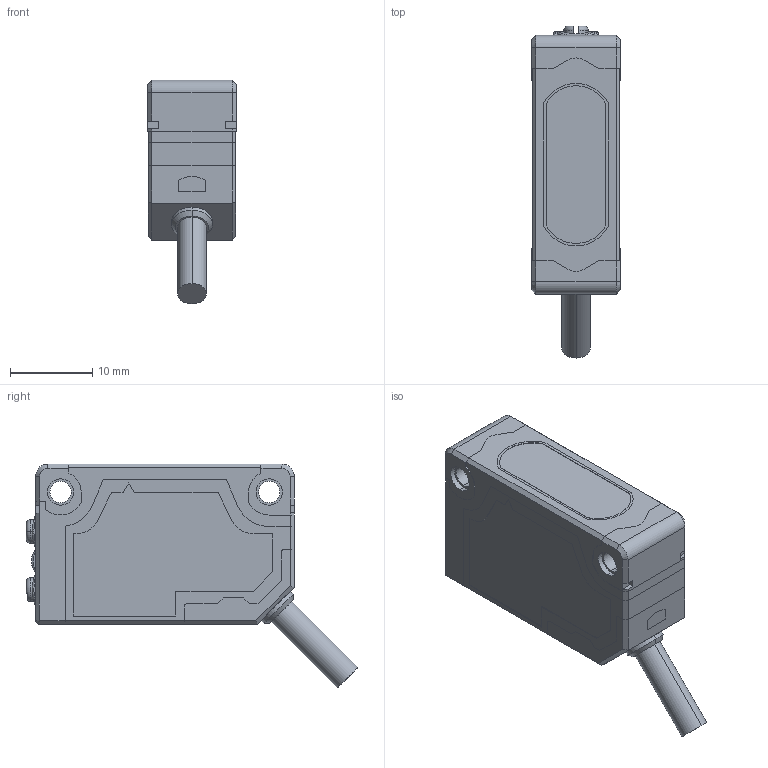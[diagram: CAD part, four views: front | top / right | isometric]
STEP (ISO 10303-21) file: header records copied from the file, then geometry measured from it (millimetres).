
FILE_DESCRIPTION(/* description */ (''),/* implementation_level */ '2;1');
FILE_NAME(/* name */ 'S3Z PH-PR L_D_CABLE.stp',/* time_stamp */ '2017-04-21T12:43:59+02:00',/* author */ (''),/* organization */ (''),/* preprocessor_version */ 'ST-DEVELOPER v16',/* originating_system */ 'SIEMENS PLM Software NX 10.0',/* authorisation */ '');
FILE_SCHEMA (('AUTOMOTIVE_DESIGN { 1 0 10303 214 3 1 1 1 }'));
Length unit declared in the file: millimetre
Products named in the file (1): adic127050C7r5cg
Bounding box: 10.8 x 40.41 x 27.26 mm (x, y, z)
Volume: 6396.2 mm3; surface area: 2568.6 mm2
Topology: 1 solids, 3 shells, 227 faces, 613 edges, 413 vertices
Faces by surface type: plane 154, cylinder 52, torus 9, cone 8, bspline 4
Entity records: 8476 total; most frequent: CARTESIAN_POINT 1986, ORIENTED_EDGE 1226, DIRECTION 1162, EDGE_CURVE 613, LINE 436, VECTOR 436, VERTEX_POINT 413, AXIS2_PLACEMENT_3D 363
